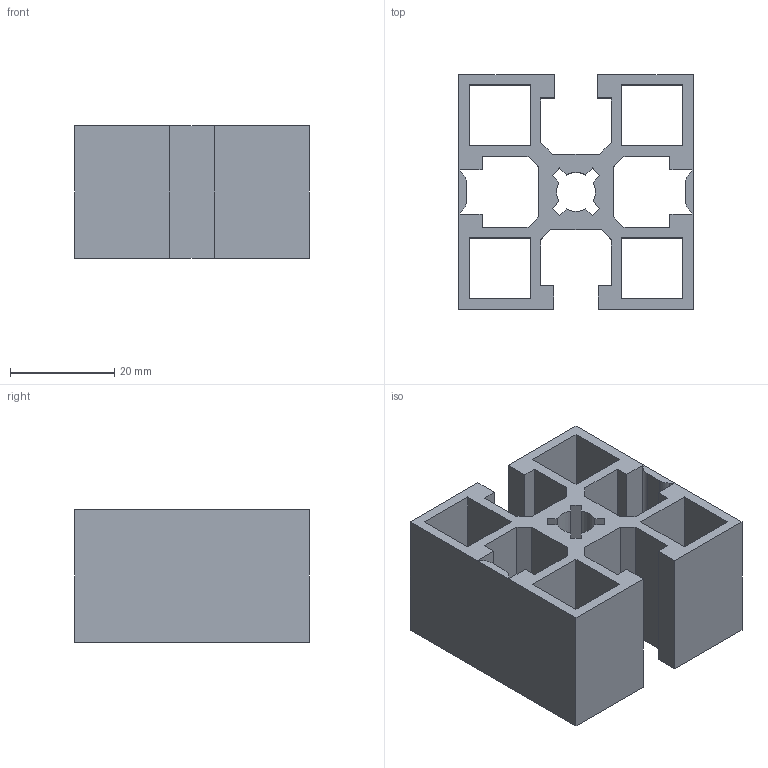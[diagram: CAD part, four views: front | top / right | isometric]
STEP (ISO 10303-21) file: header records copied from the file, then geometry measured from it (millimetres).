
FILE_DESCRIPTION((''),'2;1');
FILE_NAME('C:\Documents and Settings\Administrator\My Documents\Andys Backup Data\WEBSITE\DREAMWEAVER\MiniTec\Products\Aluminum_Profiles\CAD\STEP\20.1099 45X45 2GG.stp','2012-05-01T10:19:07',('Administrator'),(''),'Autodesk Inventor 2009','Autodesk Inventor 2009','');
FILE_SCHEMA(('AUTOMOTIVE_DESIGN { 1 0 10303 214 1 1 1 1 }'));
Length unit declared in the file: inch
Products named in the file (1): 20.1099 45X45 2GG
Bounding box: 45 x 45 x 25.4 mm (x, y, z)
Volume: 18228.7 mm3; surface area: 16527.6 mm2
Topology: 1 solids, 1 shells, 90 faces, 264 edges, 176 vertices
Faces by surface type: plane 82, cylinder 8
Entity records: 3000 total; most frequent: CARTESIAN_POINT 531, ORIENTED_EDGE 528, DIRECTION 462, EDGE_CURVE 264, VECTOR 248, LINE 248, VERTEX_POINT 176, AXIS2_PLACEMENT_3D 107
